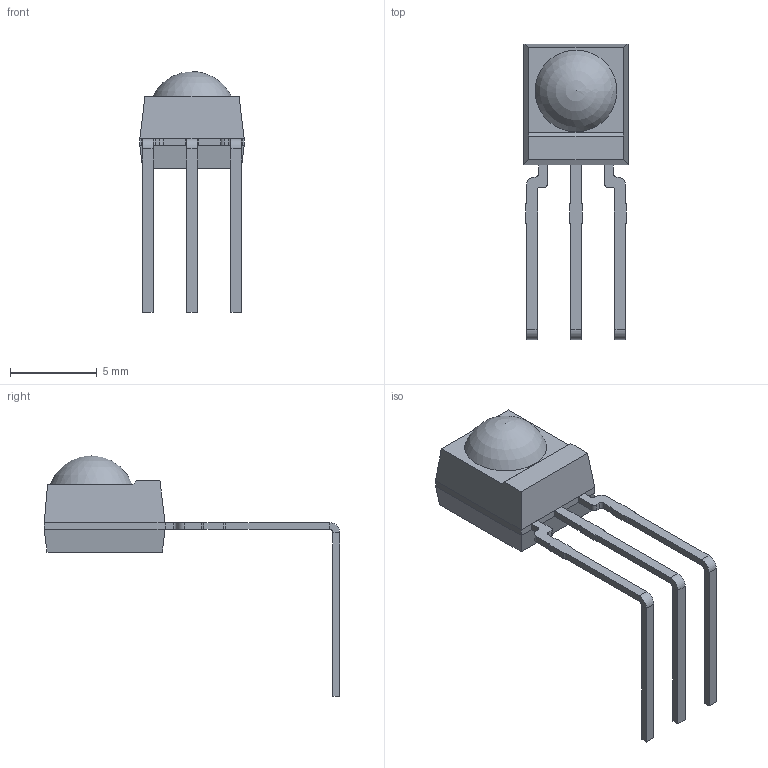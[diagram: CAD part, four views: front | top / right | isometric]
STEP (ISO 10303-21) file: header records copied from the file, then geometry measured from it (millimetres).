
FILE_DESCRIPTION((''),'2;1');
FILE_NAME('C:\temp\Mold_SR.stp','2014-06-18T12:30:24',('gobenland'),(''),'Autodesk Inventor 2013','Autodesk Inventor 2013','');
FILE_SCHEMA(('AUTOMOTIVE_DESIGN { 1 0 10303 214 1 1 1 1 }'));
Length unit declared in the file: millimetre
Products named in the file (3): GO-100184.26; GO-100184; GO-100184.026
Assembly tree (2 placements, depth 2):
  GO-100184.26
    GO-100184
    GO-100184.026
Bounding box: 6 x 17 x 13.85 mm (x, y, z)
Volume: 185.6 mm3; surface area: 302.9 mm2
Topology: 4 solids, 4 shells, 99 faces, 241 edges, 150 vertices
Faces by surface type: plane 72, cylinder 26, sphere 1
Entity records: 2924 total; most frequent: DIRECTION 500, CARTESIAN_POINT 492, ORIENTED_EDGE 478, EDGE_CURVE 239, VECTOR 186, LINE 186, AXIS2_PLACEMENT_3D 157, VERTEX_POINT 149
